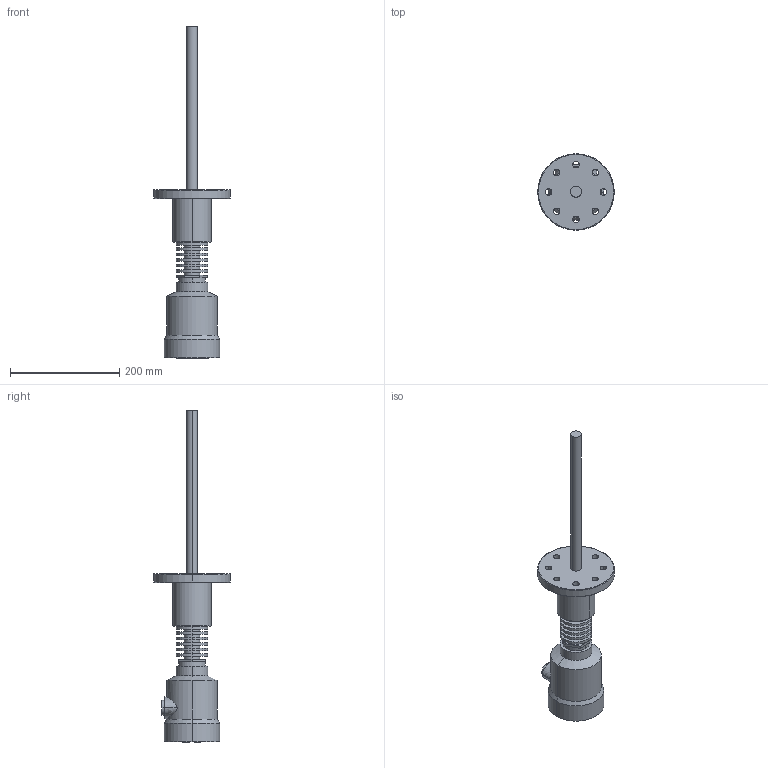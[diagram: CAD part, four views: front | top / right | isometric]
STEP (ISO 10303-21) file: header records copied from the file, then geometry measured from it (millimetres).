
FILE_DESCRIPTION((''),'2;1');
FILE_NAME('700','2025-12-30T15:23:39',('28740194'),(''),'CREO PARAMETRIC BY PTC INC, 2024063','CREO PARAMETRIC BY PTC INC, 2024063','');
FILE_SCHEMA(('CONFIG_CONTROL_DESIGN'));
Length unit declared in the file: millimetre
Products named in the file (1): 700
Bounding box: 140 x 140 x 607.87 mm (x, y, z)
Volume: 1677832 mm3; surface area: 161922.8 mm2
Topology: 1 solids, 1 shells, 384 faces, 1024 edges, 678 vertices
Faces by surface type: plane 312, cylinder 60, torus 6, cone 4, extrusion 2
Entity records: 12010 total; most frequent: CARTESIAN_POINT 2220, ORIENTED_EDGE 2048, DIRECTION 1922, EDGE_CURVE 1024, VECTOR 890, LINE 888, VERTEX_POINT 678, AXIS2_PLACEMENT_3D 516
